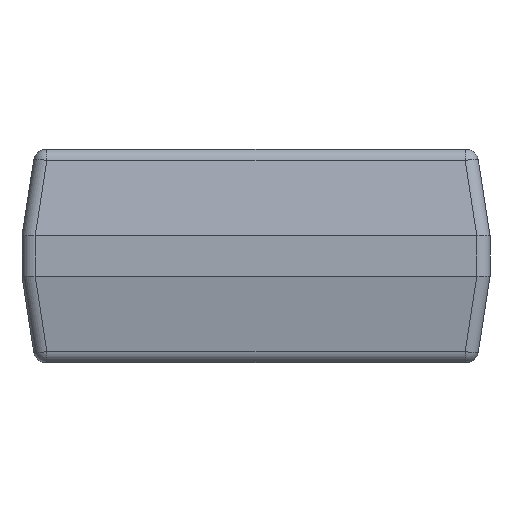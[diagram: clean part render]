
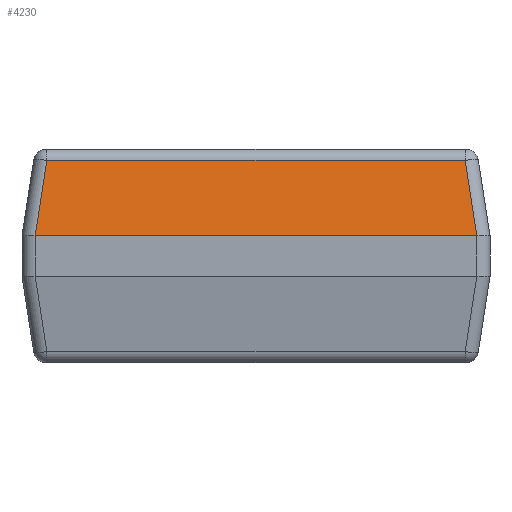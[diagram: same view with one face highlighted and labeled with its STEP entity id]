
A CAD part, front view. The second image highlights one B-rep face of the part: STEP entity #4230.
In plain terms, the highlighted planar face has unit normal (0, -0.988, 0.152).
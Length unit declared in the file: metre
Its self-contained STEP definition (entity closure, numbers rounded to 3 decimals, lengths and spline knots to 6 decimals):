
#15=ELLIPSE('',#5793,0.000658,0.0001);
#19=ELLIPSE('',#5804,0.000658,0.0001);
#1274=ORIENTED_EDGE('',*,*,#2040,.F.);
#1275=ORIENTED_EDGE('',*,*,#1971,.T.);
#1276=ORIENTED_EDGE('',*,*,#1959,.T.);
#1277=ORIENTED_EDGE('',*,*,#1950,.T.);
#1278=ORIENTED_EDGE('',*,*,#1967,.T.);
#1279=ORIENTED_EDGE('',*,*,#1981,.T.);
#1950=EDGE_CURVE('',#2369,#2368,#2751,.T.);
#1959=EDGE_CURVE('',#2373,#2369,#2754,.T.);
#1967=EDGE_CURVE('',#2368,#2380,#2759,.T.);
#1971=EDGE_CURVE('',#2383,#2373,#15,.T.);
#1981=EDGE_CURVE('',#2380,#2389,#19,.T.);
#2040=EDGE_CURVE('',#2383,#2389,#2794,.T.);
#2368=VERTEX_POINT('',#11102);
#2369=VERTEX_POINT('',#11104);
#2373=VERTEX_POINT('',#11118);
#2380=VERTEX_POINT('',#11137);
#2383=VERTEX_POINT('',#11146);
#2389=VERTEX_POINT('',#11164);
#2751=LINE('',#11103,#3126);
#2754=LINE('',#11121,#3129);
#2759=LINE('',#11138,#3134);
#2794=LINE('',#11278,#3169);
#3126=VECTOR('',#6545,1.);
#3129=VECTOR('',#6566,1.);
#3134=VECTOR('',#6583,1.);
#3169=VECTOR('',#6744,1.);
#3391=EDGE_LOOP('',(#1274,#1275,#1276,#1277,#1278,#1279));
#3637=FACE_BOUND('',#3391,.T.);
#3783=PLANE('',#5853);
#4230=ADVANCED_FACE('',(#3637),#3783,.T.);
#5793=AXIS2_PLACEMENT_3D('',#11145,#6590,#6591);
#5804=AXIS2_PLACEMENT_3D('',#11166,#6614,#6615);
#5853=AXIS2_PLACEMENT_3D('',#11277,#6742,#6743);
#6545=DIRECTION('',(-1.,0.,0.));
#6566=DIRECTION('',(-0.15,0.15,0.977));
#6583=DIRECTION('',(-0.15,-0.15,-0.977));
#6590=DIRECTION('',(0.,-0.988,0.152));
#6591=DIRECTION('',(0.,-0.152,-0.988));
#6614=DIRECTION('',(0.,-0.988,0.152));
#6615=DIRECTION('',(0.,-0.152,-0.988));
#6742=DIRECTION('',(0.,-0.988,0.152));
#6743=DIRECTION('',(-1.,0.,0.));
#6744=DIRECTION('',(-1.,0.,0.));
#11102=CARTESIAN_POINT('',(-0.121974,-0.038097,0.011165));
#11103=CARTESIAN_POINT('',(-0.12041,-0.038097,0.011165));
#11104=CARTESIAN_POINT('',(-0.118846,-0.038097,0.011165));
#11118=CARTESIAN_POINT('',(-0.118759,-0.038184,0.010599));
#11121=CARTESIAN_POINT('',(-0.118894,-0.038049,0.011477));
#11137=CARTESIAN_POINT('',(-0.122061,-0.038184,0.010599));
#11138=CARTESIAN_POINT('',(-0.121926,-0.038049,0.011477));
#11145=CARTESIAN_POINT('',(-0.11876,-0.038084,0.011249));
#11146=CARTESIAN_POINT('',(-0.11876,-0.038184,0.010599));
#11164=CARTESIAN_POINT('',(-0.12206,-0.038184,0.010599));
#11166=CARTESIAN_POINT('',(-0.12206,-0.038084,0.011249));
#11277=CARTESIAN_POINT('',(-0.12041,-0.038084,0.011249));
#11278=CARTESIAN_POINT('',(-0.12216,-0.038184,0.010599));
